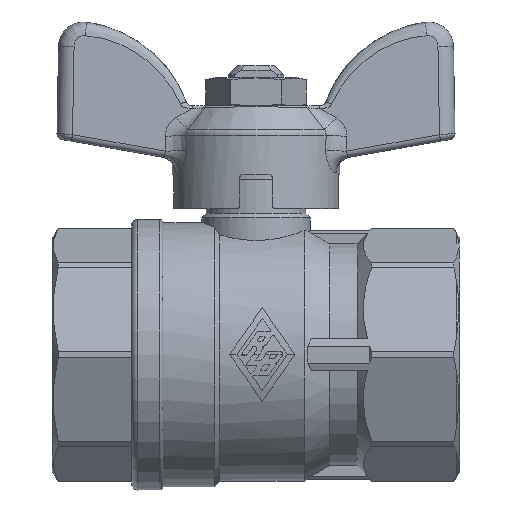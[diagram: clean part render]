
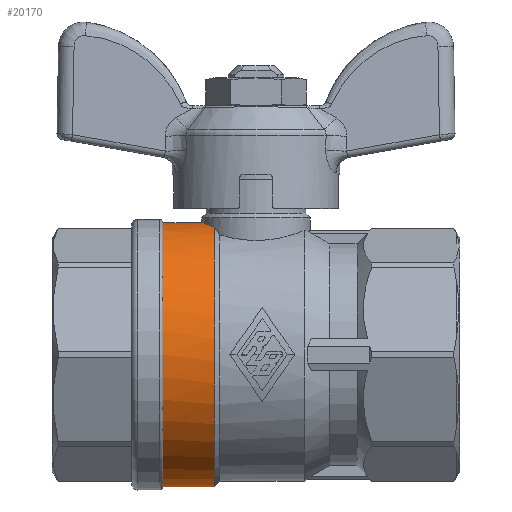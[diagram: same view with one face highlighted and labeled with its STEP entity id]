
A CAD part, top view. The second image highlights one B-rep face of the part: STEP entity #20170.
In plain terms, the highlighted cylindrical face has radius 21.25 mm (diameter 42.5 mm), a partial arc.
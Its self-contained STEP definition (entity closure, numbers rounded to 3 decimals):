
#19010=CARTESIAN_POINT('',(-21.25,-1.75,0.));
#19020=VERTEX_POINT('',#19010);
#19110=CARTESIAN_POINT('',(21.25,-1.75,0.));
#19120=VERTEX_POINT('',#19110);
#19150=CARTESIAN_POINT('',(0.,-1.75,0.));
#19160=DIRECTION('',(0.,1.,0.));
#19170=DIRECTION('',(1.,0.,0.));
#19180=AXIS2_PLACEMENT_3D('',#19150,#19160,#19170);
#19190=CIRCLE('',#19180,21.25);
#19250=CARTESIAN_POINT('',(0.,-5.874,0.));
#19260=DIRECTION('',(0.,-1.,0.));
#19270=DIRECTION('',(-1.,0.,0.));
#19280=AXIS2_PLACEMENT_3D('',#19250,#19260,#19270);
#19290=CYLINDRICAL_SURFACE('',#19280,21.25);
#19300=CARTESIAN_POINT('',(21.25,-5.874,
0.));
#19310=DIRECTION('',(0.,-1.,0.));
#19320=VECTOR('',#19310,1.);
#19330=LINE('',#19300,#19320);
#19340=CARTESIAN_POINT('',(21.25,-9.998,
0.));
#19350=VERTEX_POINT('',#19340);
#19360=EDGE_CURVE('',#19120,#19350,#19330,.T.);
#19370=ORIENTED_EDGE('',*,*,#19360,.T.);
#19380=EDGE_CURVE('',#19120,#19020,#19190,.T.);
#19390=ORIENTED_EDGE('',*,*,#19380,.F.);
#19400=CARTESIAN_POINT('',(-21.25,-5.874,0.));
#19410=DIRECTION('',(0.,-1.,0.));
#19420=VECTOR('',#19410,1.);
#19430=LINE('',#19400,#19420);
#19440=CARTESIAN_POINT('',(-21.25,-8.,0.));
#19450=VERTEX_POINT('',#19440);
#19460=EDGE_CURVE('',#19020,#19450,#19430,.T.);
#19470=ORIENTED_EDGE('',*,*,#19460,.F.);
#19480=CARTESIAN_POINT('',(-11.,-16.75,0.));
#19490=DIRECTION('',(-1.,0.,0.));
#19500=DIRECTION('',(0.,1.,0.));
#19510=AXIS2_PLACEMENT_3D('',#19480,#19490,#19500);
#19520=CYLINDRICAL_SURFACE('',#19510,8.75);
#19530=CARTESIAN_POINT('',(-21.25,-8.,
0.));
#19540=CARTESIAN_POINT('',(-21.25,-8.,
-0.126));
#19550=CARTESIAN_POINT('',(-21.249,-8.003,
-0.253));
#19560=CARTESIAN_POINT('',(-21.247,-8.008,
-0.379));
#19570=CARTESIAN_POINT('',(-21.244,-8.014,
-0.505));
#19580=CARTESIAN_POINT('',(-21.241,-8.022,
-0.631));
#19590=CARTESIAN_POINT('',(-21.237,-8.033,
-0.757));
#19600=CARTESIAN_POINT('',(-21.232,-8.044,
-0.883));
#19610=CARTESIAN_POINT('',(-21.226,-8.057,
-1.009));
#19620=CARTESIAN_POINT('',(-21.22,-8.074,
-1.134));
#19630=CARTESIAN_POINT('',(-21.213,-8.09,
-1.259));
#19640=CARTESIAN_POINT('',(-21.205,-8.109,
-1.384));
#19650=CARTESIAN_POINT('',(-21.196,-8.131,
-1.508));
#19660=CARTESIAN_POINT('',(-21.188,-8.153,
-1.632));
#19670=CARTESIAN_POINT('',(-21.178,-8.177,
-1.756));
#19680=CARTESIAN_POINT('',(-21.167,-8.204,
-1.879));
#19690=CARTESIAN_POINT('',(-21.156,-8.231,
-2.002));
#19700=CARTESIAN_POINT('',(-21.144,-8.261,
-2.125));
#19710=CARTESIAN_POINT('',(-21.131,-8.293,
-2.246));
#19720=CARTESIAN_POINT('',(-21.118,-8.326,
-2.368));
#19730=CARTESIAN_POINT('',(-21.104,-8.36,
-2.489));
#19740=CARTESIAN_POINT('',(-21.089,-8.398,
-2.609));
#19750=CARTESIAN_POINT('',(-21.074,-8.435,
-2.728));
#19760=CARTESIAN_POINT('',(-21.059,-8.475,
-2.848));
#19770=CARTESIAN_POINT('',(-21.042,-8.518,
-2.966));
#19780=CARTESIAN_POINT('',(-21.025,-8.561,
-3.084));
#19790=CARTESIAN_POINT('',(-21.008,-8.606,
-3.202));
#19800=CARTESIAN_POINT('',(-20.989,-8.653,
-3.318));
#19810=CARTESIAN_POINT('',(-20.971,-8.701,
-3.434));
#19820=CARTESIAN_POINT('',(-20.952,-8.751,
-3.55));
#19830=CARTESIAN_POINT('',(-20.932,-8.804,
-3.664));
#19840=CARTESIAN_POINT('',(-20.912,-8.857,
-3.778));
#19850=CARTESIAN_POINT('',(-20.891,-8.912,
-3.892));
#19860=CARTESIAN_POINT('',(-20.869,-8.97,
-4.003));
#19870=CARTESIAN_POINT('',(-20.848,-9.027,
-4.115));
#19880=CARTESIAN_POINT('',(-20.826,-9.087,
-4.226));
#19890=CARTESIAN_POINT('',(-20.803,-9.149,
-4.335));
#19900=CARTESIAN_POINT('',(-20.78,-9.211,
-4.444));
#19910=CARTESIAN_POINT('',(-20.757,-9.276,
-4.552));
#19920=CARTESIAN_POINT('',(-20.733,-9.343,
-4.658));
#19930=CARTESIAN_POINT('',(-20.709,-9.409,
-4.764));
#19940=CARTESIAN_POINT('',(-20.685,-9.478,
-4.868));
#19950=CARTESIAN_POINT('',(-20.66,-9.549,
-4.971));
#19960=CARTESIAN_POINT('',(-20.636,-9.62,
-5.074));
#19970=CARTESIAN_POINT('',(-20.611,-9.693,
-5.175));
#19980=CARTESIAN_POINT('',(-20.585,-9.768,
-5.274));
#19990=CARTESIAN_POINT('',(-20.56,-9.843,
-5.373));
#20000=CARTESIAN_POINT('',(-20.534,-9.92,
-5.47));
#20010=CARTESIAN_POINT('',(-20.508,-9.998,
-5.566));
#20020=B_SPLINE_CURVE_WITH_KNOTS('',3,(#19530,#19540,#19550,#19560,
#19570,#19580,#19590,#19600,#19610,#19620,#19630,#19640,#19650,#19660,
#19670,#19680,#19690,#19700,#19710,#19720,#19730,#19740,#19750,#19760,
#19770,#19780,#19790,#19800,#19810,#19820,#19830,#19840,#19850,#19860,
#19870,#19880,#19890,#19900,#19910,#19920,#19930,#19940,#19950,#19960,
#19970,#19980,#19990,#20000,#20010),.UNSPECIFIED.,.F.,.F.,(4,3,3,3,3,3,3
,3,3,3,3,3,3,3,3,3,4),(0.,0.379,0.758,
1.138,1.517,1.896,2.276,
2.655,3.035,3.416,3.798,
4.181,4.564,4.946,5.328,
5.71,6.09),.UNSPECIFIED.);
#20030=SURFACE_CURVE('',#20020,(#19290,#19520),.CURVE_3D.);
#20040=CARTESIAN_POINT('',(-20.508,-9.998,
-5.566));
#20050=VERTEX_POINT('',#20040);
#20060=EDGE_CURVE('',#19450,#20050,#20030,.T.);
#20070=ORIENTED_EDGE('',*,*,#20060,.F.);
#20080=CARTESIAN_POINT('',(0.,-9.998,0.));
#20090=DIRECTION('',(0.,1.,0.));
#20100=DIRECTION('',(1.,0.,0.));
#20110=AXIS2_PLACEMENT_3D('',#20080,#20090,#20100);
#20120=CIRCLE('',#20110,21.25);
#20130=EDGE_CURVE('',#19350,#20050,#20120,.T.);
#20140=ORIENTED_EDGE('',*,*,#20130,.T.);
#20150=EDGE_LOOP('',(#20140,#20070,#19470,#19390,#19370));
#20160=FACE_OUTER_BOUND('',#20150,.T.);
#20170=ADVANCED_FACE('',(#20160),#19290,.T.);
